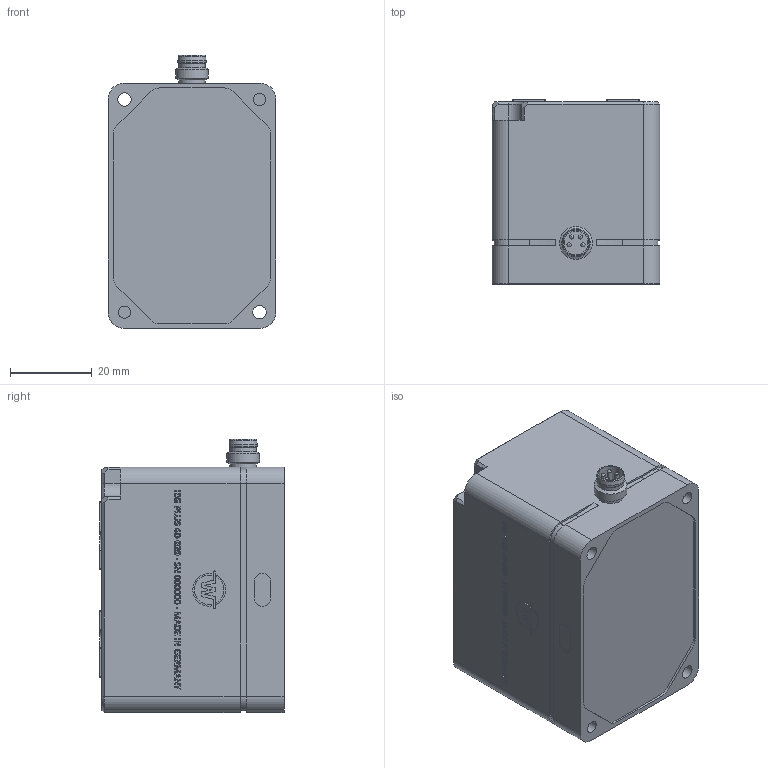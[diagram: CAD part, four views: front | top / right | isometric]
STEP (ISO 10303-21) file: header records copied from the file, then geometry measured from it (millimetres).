
FILE_DESCRIPTION(/* description */ (' Elektrische Greifmodule mit IO-Link IEG PLUS 40-020'),/* implementation_level */ '2;1');
FILE_NAME(/* name */ 'H:\IEG\Mechanik\IEG PLUS 40-020\Konturvereinfachung\IEG_PLUS_40-020_customer.stp',/* time_stamp */ '2023-06-29T10:20:11+02:00',/* author */ ('Karsten Weiß'),/* organization */ ('WEISS ROBOTICS GMBH & CO. KG Karl-Heinrich-Käferle-Str. 8 D-71640 Ludwigsburg Telefon: +49 7141 94 702-0 office@weiss-robotics.com'),/* preprocessor_version */ 'ST-DEVELOPER v17',/* originating_system */ 'Autodesk Inventor 2018',/* authorisation */ '');
FILE_SCHEMA (('AUTOMOTIVE_DESIGN { 1 0 10303 214 3 1 1 }'));
Length unit declared in the file: millimetre
Products named in the file (3): IEG PLUS 30-020 Customer; IEG PLUS 200-030 Body; IEG55-0003-02
Assembly tree (3 placements, depth 2):
  IEG PLUS 30-020 Customer
    IEG PLUS 200-030 Body
    IEG55-0003-02  x2
Bounding box: 41 x 45 x 66.75 mm (x, y, z)
Volume: 104949.7 mm3; surface area: 17976.9 mm2
Topology: 8 solids, 8 shells, 744 faces, 1998 edges, 1337 vertices
Faces by surface type: plane 345, bspline 305, cylinder 81, cone 8, sphere 4, torus 1
Full cylindrical faces by diameter (mm): 1 x4, 1.5 x4, 3 x4, 3.005 x2, 3.3 x2, 5.8 x1, 6.5 x2, 6.9 x1, 8 x1
Entity records: 29094 total; most frequent: CARTESIAN_POINT 13049, ORIENTED_EDGE 3804, DIRECTION 2284, EDGE_CURVE 1902, VERTEX_POINT 1273, LINE 1120, VECTOR 1120, EDGE_LOOP 779
